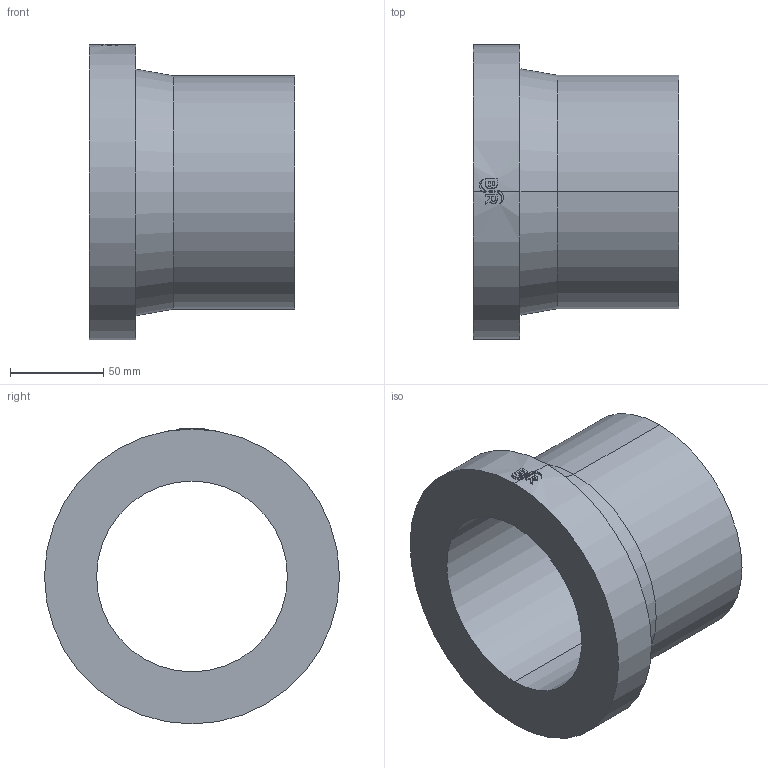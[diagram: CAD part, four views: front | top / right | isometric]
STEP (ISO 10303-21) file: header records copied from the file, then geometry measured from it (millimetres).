
FILE_DESCRIPTION (( 'STEP AP214' ), '1' );
FILE_NAME ('233515F015.STEP', '2018-07-20T09:22:08', ( '' ), ( '' ), 'SwSTEP 2.0', 'SolidWorks 2017', '' );
FILE_SCHEMA (( 'AUTOMOTIVE_DESIGN' ));
Length unit declared in the file: millimetre
Products named in the file (1): 233515F015
Bounding box: 110 x 158 x 158.5 mm (x, y, z)
Volume: 644936.4 mm3; surface area: 102899.9 mm2
Topology: 1 solids, 1 shells, 60 faces, 154 edges, 102 vertices
Faces by surface type: cylinder 29, plane 29, cone 2
Entity records: 2859 total; most frequent: CARTESIAN_POINT 742, ORIENTED_EDGE 308, DIRECTION 282, EDGE_CURVE 154, AXIS2_PLACEMENT_3D 107, VERTEX_POINT 102, VECTOR 68, LINE 68
